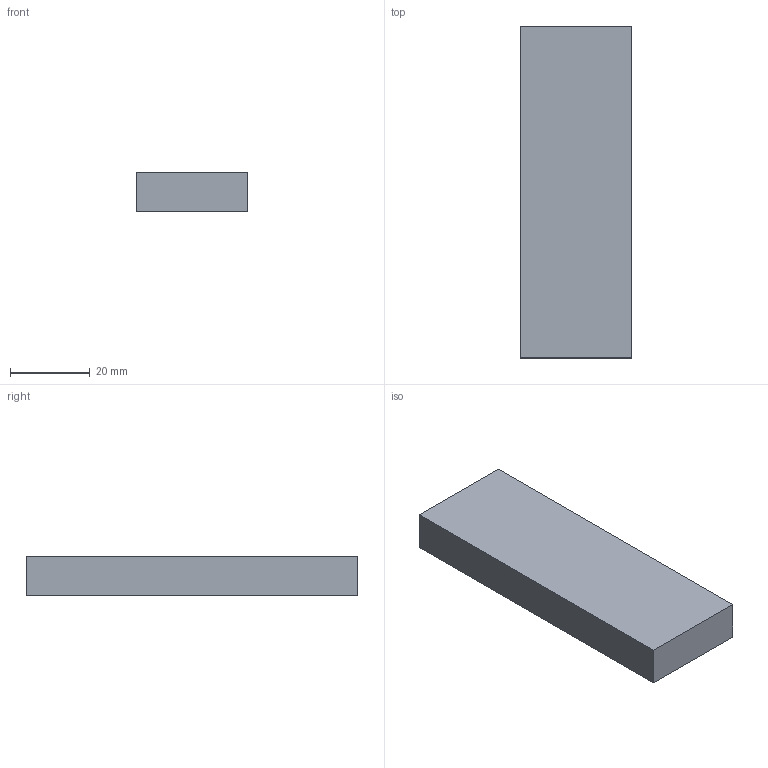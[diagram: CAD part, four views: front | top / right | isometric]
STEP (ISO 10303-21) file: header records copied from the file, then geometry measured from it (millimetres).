
FILE_DESCRIPTION(('Open CASCADE Model'),'2;1');
FILE_NAME('Open CASCADE Shape Model','2026-10-04T02:31:37',('Author'),( 'Open CASCADE'),'Open CASCADE STEP processor 8.0','Open CASCADE 8.0' ,'Unknown');
FILE_SCHEMA(('AUTOMOTIVE_DESIGN { 1 0 10303 214 1 1 1 1 }'));
Length unit declared in the file: millimetre
Products named in the file (1): Open CASCADE STEP translator 8.0 91
Bounding box: 28 x 83 x 10 mm (x, y, z)
Volume: 23240 mm3; surface area: 6868 mm2
Topology: 1 solids, 1 shells, 6 faces, 12 edges, 8 vertices
Faces by surface type: plane 6
Entity records: 322 total; most frequent: CARTESIAN_POINT 51, DIRECTION 50, LINE 36, VECTOR 36, ORIENTED_EDGE 24, PCURVE 24, DEFINITIONAL_REPRESENTATION 24, EDGE_CURVE 12
